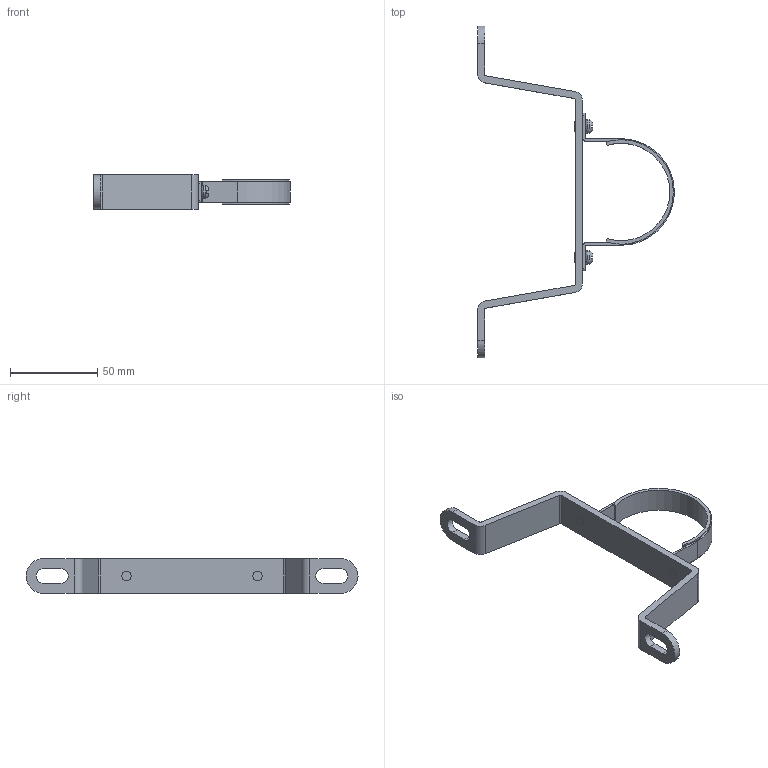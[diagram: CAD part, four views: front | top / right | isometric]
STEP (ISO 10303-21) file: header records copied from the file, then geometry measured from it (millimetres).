
FILE_DESCRIPTION(/* description */ (''),/* implementation_level */ '2;1');
FILE_NAME(/* name */ 'F:\Артём\00000\Работа удаленка\VTc.130\VTc.130.INH.0800.stp',/* time_stamp */ '2022-08-19T10:33:52+03:00',/* author */ ('almis'),/* organization */ (''),/* preprocessor_version */ 'ST-DEVELOPER v18',/* originating_system */ 'Autodesk Inventor 2020',/* authorisation */ '');
FILE_SCHEMA (('AUTOMOTIVE_DESIGN { 1 0 10303 214 3 1 1 }'));
Length unit declared in the file: millimetre
Products named in the file (1): VT.GPM.05S04.L4_05
Bounding box: 112.6 x 190 x 20 mm (x, y, z)
Volume: 25943 mm3; surface area: 21551.3 mm2
Topology: 2 solids, 2 shells, 118 faces, 332 edges, 224 vertices
Faces by surface type: plane 62, cylinder 44, cone 8, bspline 2, torus 2
Full cylindrical faces by diameter (mm): 5.384 x3, 5.39 x3, 7.931 x1, 7.941 x1
Entity records: 4144 total; most frequent: CARTESIAN_POINT 1037, ORIENTED_EDGE 664, DIRECTION 618, EDGE_CURVE 332, VERTEX_POINT 224, AXIS2_PLACEMENT_3D 221, LINE 176, VECTOR 176
